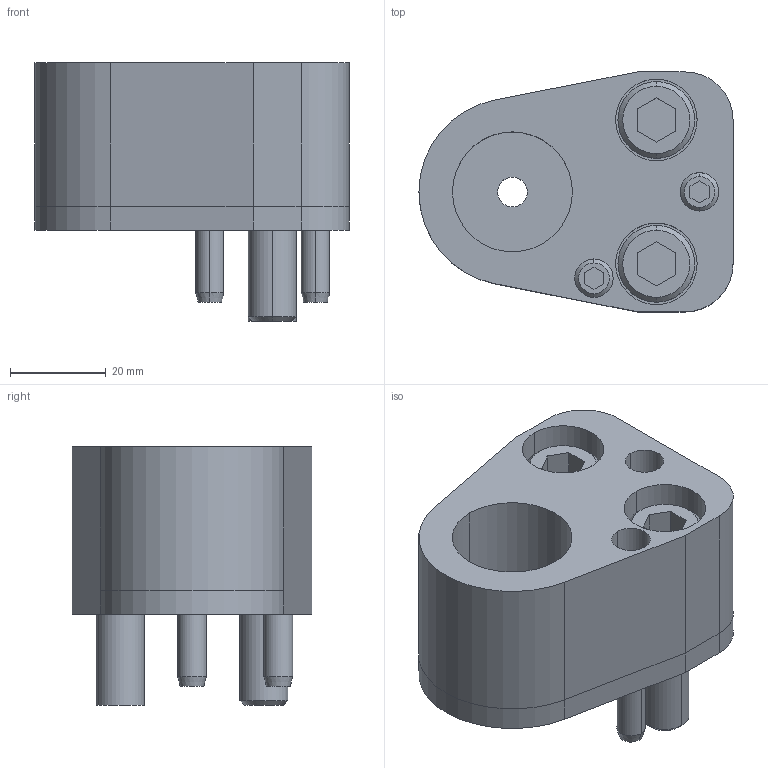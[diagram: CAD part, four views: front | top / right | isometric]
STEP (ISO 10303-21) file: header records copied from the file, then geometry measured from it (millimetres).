
FILE_DESCRIPTION(/* description */ (''),/* implementation_level */ '2;1');
FILE_NAME(/* name */ '3d_fp-ap25_02890_r00.stp',/* time_stamp */ '2011-01-10T14:15:36+09:00',/* author */ ('MISUMI'),/* organization */ (''),/* preprocessor_version */ 'ST-DEVELOPER v11',/* originating_system */ 'UGS - NX 5.0',/* authorisation */ '');
FILE_SCHEMA (('CONFIG_CONTROL_DESIGN'));
Length unit declared in the file: millimetre
Products named in the file (1): 3d_fp-ap25_02890_r00
Bounding box: 65.5 x 50 x 54 mm (x, y, z)
Volume: 76923 mm3; surface area: 29289.8 mm2
Topology: 8 solids, 8 shells, 153 faces, 342 edges, 220 vertices
Faces by surface type: plane 67, cylinder 62, cone 24
Entity records: 4424 total; most frequent: DIRECTION 794, CARTESIAN_POINT 764, ORIENTED_EDGE 684, EDGE_CURVE 342, AXIS2_PLACEMENT_3D 302, VERTEX_POINT 220, LINE 190, VECTOR 190
